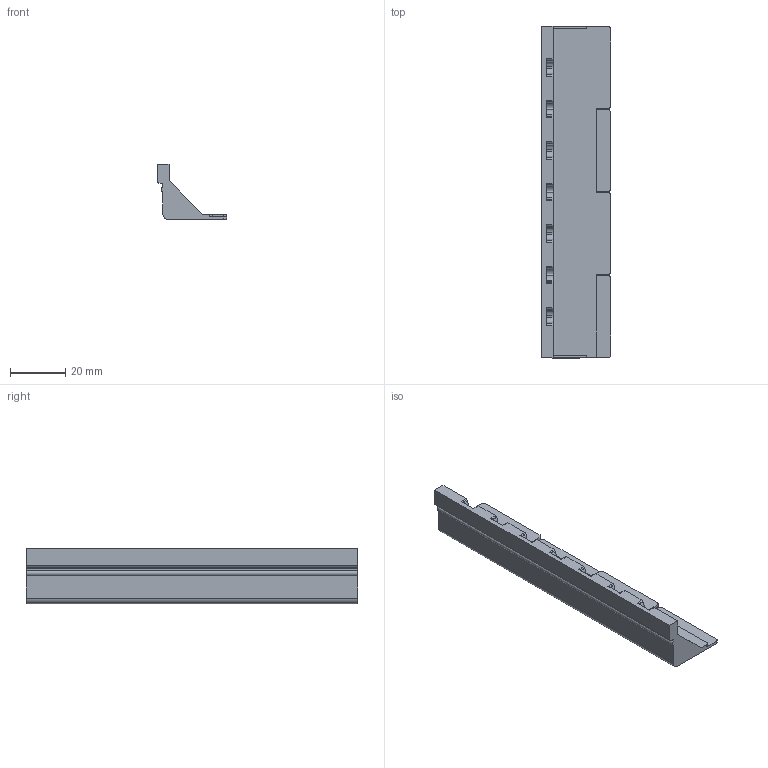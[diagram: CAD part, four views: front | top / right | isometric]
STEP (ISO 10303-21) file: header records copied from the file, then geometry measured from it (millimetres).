
FILE_DESCRIPTION((''),'2;1');
FILE_NAME('C:\Andys Backup Data\WEBSITE\DREAMWEAVER\MiniTec\Products\KanBan\CAD\Step\22.1126 PULLEY CARRIER 45X45R BASEMENT.stp','2013-04-02T11:24:16',('Admin'),(''),'Autodesk Inventor 2012','Autodesk Inventor 2012','');
FILE_SCHEMA(('AUTOMOTIVE_DESIGN { 1 0 10303 214 1 1 1 1 }'));
Length unit declared in the file: millimetre
Products named in the file (1): 22.1126 PULLEY CARRIER 45X45R BASEMENT
Bounding box: 25 x 120 x 20 mm (x, y, z)
Volume: 8425.4 mm3; surface area: 11968.8 mm2
Topology: 1 solids, 1 shells, 223 faces, 651 edges, 434 vertices
Faces by surface type: cylinder 122, plane 101
Entity records: 7724 total; most frequent: DIRECTION 1343, CARTESIAN_POINT 1309, ORIENTED_EDGE 1302, EDGE_CURVE 651, AXIS2_PLACEMENT_3D 468, VERTEX_POINT 434, VECTOR 407, LINE 407
